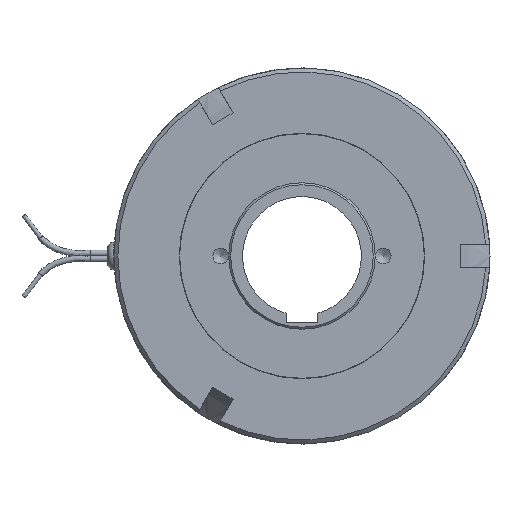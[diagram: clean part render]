
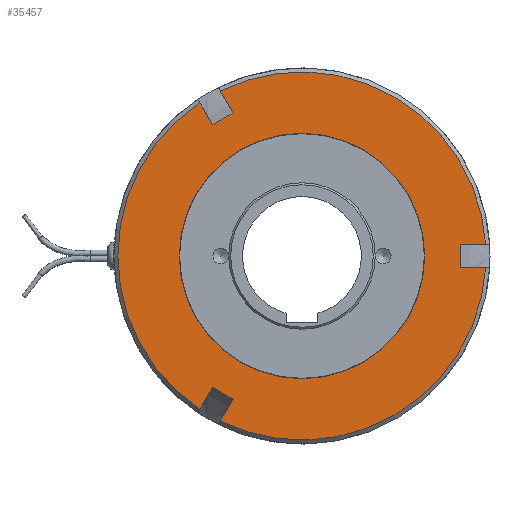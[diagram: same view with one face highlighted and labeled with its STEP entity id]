
A CAD part, left-side view. The second image highlights one B-rep face of the part: STEP entity #35457.
In plain terms, the highlighted planar face has unit normal (-1, 0, 0).
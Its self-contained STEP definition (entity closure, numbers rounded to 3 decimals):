
#490=FACE_BOUND('',#3790,.T.);
#704=PLANE('',#40186);
#2123=FACE_OUTER_BOUND('',#3789,.T.);
#3789=EDGE_LOOP('',(#30165,#30166,#30167,#30168,#30169,#30170,#30171,#30172,
#30173,#30174,#30175,#30176));
#3790=EDGE_LOOP('',(#30177,#30178));
#5585=LINE('',#64329,#7444);
#5586=LINE('',#64337,#7445);
#5587=LINE('',#64343,#7446);
#5588=LINE('',#64347,#7447);
#5590=LINE('',#64358,#7449);
#5592=LINE('',#64376,#7451);
#5593=LINE('',#64382,#7452);
#5594=LINE('',#64384,#7453);
#5595=LINE('',#64386,#7454);
#7444=VECTOR('',#51153,10.);
#7445=VECTOR('',#51158,10.);
#7446=VECTOR('',#51163,10.);
#7447=VECTOR('',#51166,10.);
#7449=VECTOR('',#51172,10.);
#7451=VECTOR('',#51178,10.);
#7452=VECTOR('',#51185,10.);
#7453=VECTOR('',#51186,10.);
#7454=VECTOR('',#51187,10.);
#10949=CIRCLE('',#40187,46.5);
#10950=CIRCLE('',#40188,46.5);
#10951=CIRCLE('',#40189,46.5);
#10952=CIRCLE('',#40190,31.);
#10953=CIRCLE('',#40191,31.);
#14475=VERTEX_POINT('',#64327);
#14476=VERTEX_POINT('',#64328);
#14477=VERTEX_POINT('',#64335);
#14478=VERTEX_POINT('',#64336);
#14479=VERTEX_POINT('',#64345);
#14480=VERTEX_POINT('',#64346);
#14483=VERTEX_POINT('',#64356);
#14484=VERTEX_POINT('',#64357);
#14488=VERTEX_POINT('',#64379);
#14489=VERTEX_POINT('',#64381);
#14490=VERTEX_POINT('',#64383);
#14491=VERTEX_POINT('',#64385);
#14492=VERTEX_POINT('',#64388);
#14493=VERTEX_POINT('',#64389);
#19775=EDGE_CURVE('',#14475,#14476,#5585,.T.);
#19778=EDGE_CURVE('',#14477,#14478,#5586,.T.);
#19781=EDGE_CURVE('',#14478,#14475,#5587,.T.);
#19782=EDGE_CURVE('',#14479,#14480,#5588,.T.);
#19786=EDGE_CURVE('',#14483,#14484,#5590,.T.);
#19792=EDGE_CURVE('',#14484,#14479,#5592,.T.);
#19793=EDGE_CURVE('',#14483,#14476,#10949,.T.);
#19794=EDGE_CURVE('',#14488,#14480,#10950,.T.);
#19795=EDGE_CURVE('',#14488,#14489,#5593,.T.);
#19796=EDGE_CURVE('',#14489,#14490,#5594,.T.);
#19797=EDGE_CURVE('',#14490,#14491,#5595,.T.);
#19798=EDGE_CURVE('',#14477,#14491,#10951,.T.);
#19799=EDGE_CURVE('',#14492,#14493,#10952,.T.);
#19800=EDGE_CURVE('',#14493,#14492,#10953,.T.);
#30165=ORIENTED_EDGE('',*,*,#19778,.T.);
#30166=ORIENTED_EDGE('',*,*,#19781,.T.);
#30167=ORIENTED_EDGE('',*,*,#19775,.T.);
#30168=ORIENTED_EDGE('',*,*,#19793,.F.);
#30169=ORIENTED_EDGE('',*,*,#19786,.T.);
#30170=ORIENTED_EDGE('',*,*,#19792,.T.);
#30171=ORIENTED_EDGE('',*,*,#19782,.T.);
#30172=ORIENTED_EDGE('',*,*,#19794,.F.);
#30173=ORIENTED_EDGE('',*,*,#19795,.T.);
#30174=ORIENTED_EDGE('',*,*,#19796,.T.);
#30175=ORIENTED_EDGE('',*,*,#19797,.T.);
#30176=ORIENTED_EDGE('',*,*,#19798,.F.);
#30177=ORIENTED_EDGE('',*,*,#19799,.T.);
#30178=ORIENTED_EDGE('',*,*,#19800,.T.);
#35457=ADVANCED_FACE('',(#2123,#490),#704,.T.);
#40186=AXIS2_PLACEMENT_3D('',#64377,#51179,#51180);
#40187=AXIS2_PLACEMENT_3D('',#64378,#51181,#51182);
#40188=AXIS2_PLACEMENT_3D('',#64380,#51183,#51184);
#40189=AXIS2_PLACEMENT_3D('',#64387,#51188,#51189);
#40190=AXIS2_PLACEMENT_3D('',#64390,#51190,#51191);
#40191=AXIS2_PLACEMENT_3D('',#64391,#51192,#51193);
#51153=DIRECTION('',(0.,0.5,0.866));
#51158=DIRECTION('',(0.,-0.5,-0.866));
#51163=DIRECTION('',(0.,0.866,-0.5));
#51166=DIRECTION('',(0.,0.5,-0.866));
#51172=DIRECTION('',(0.,-0.5,0.866));
#51178=DIRECTION('',(0.,-0.866,-0.5));
#51179=DIRECTION('center_axis',(-1.,0.,0.));
#51180=DIRECTION('ref_axis',(0.,0.,1.));
#51181=DIRECTION('center_axis',(1.,0.,0.));
#51182=DIRECTION('ref_axis',(0.,-1.,0.));
#51183=DIRECTION('center_axis',(1.,0.,0.));
#51184=DIRECTION('ref_axis',(0.,-1.,0.));
#51185=DIRECTION('',(0.,1.,0.));
#51186=DIRECTION('',(0.,0.,1.));
#51187=DIRECTION('',(0.,-1.,0.));
#51188=DIRECTION('center_axis',(1.,0.,0.));
#51189=DIRECTION('ref_axis',(0.,-1.,0.));
#51190=DIRECTION('center_axis',(1.,0.,0.));
#51191=DIRECTION('ref_axis',(0.,0.,-1.));
#51192=DIRECTION('center_axis',(1.,0.,0.));
#51193=DIRECTION('ref_axis',(0.,0.,-1.));
#64327=CARTESIAN_POINT('',(-25.,22.598,33.141));
#64328=CARTESIAN_POINT('',(-25.,25.8,38.686));
#64329=CARTESIAN_POINT('',(-25.,19.887,28.446));
#64335=CARTESIAN_POINT('',(-25.,20.603,41.686));
#64336=CARTESIAN_POINT('',(-25.,17.402,36.141));
#64337=CARTESIAN_POINT('',(-25.,14.691,31.446));
#64343=CARTESIAN_POINT('',(-25.,37.813,24.357));
#64345=CARTESIAN_POINT('',(-25.,17.402,-36.141));
#64346=CARTESIAN_POINT('',(-25.,20.603,-41.686));
#64347=CARTESIAN_POINT('',(-25.,14.691,-31.446));
#64356=CARTESIAN_POINT('',(-25.,25.8,-38.686));
#64357=CARTESIAN_POINT('',(-25.,22.598,-33.141));
#64358=CARTESIAN_POINT('',(-25.,19.887,-28.446));
#64376=CARTESIAN_POINT('',(-25.,37.813,-24.357));
#64377=CARTESIAN_POINT('Origin',(-25.,47.5,0.));
#64378=CARTESIAN_POINT('Origin',(-25.,0.,0.));
#64379=CARTESIAN_POINT('',(-25.,-46.403,-3.));
#64380=CARTESIAN_POINT('Origin',(-25.,0.,0.));
#64381=CARTESIAN_POINT('',(-25.,-40.,-3.));
#64382=CARTESIAN_POINT('',(-25.,1.047,-3.));
#64383=CARTESIAN_POINT('',(-25.,-40.,3.));
#64384=CARTESIAN_POINT('',(-25.,-40.,0.));
#64385=CARTESIAN_POINT('',(-25.,-46.403,3.));
#64386=CARTESIAN_POINT('',(-25.,1.047,3.));
#64387=CARTESIAN_POINT('Origin',(-25.,0.,0.));
#64388=CARTESIAN_POINT('',(-25.,31.,0.));
#64389=CARTESIAN_POINT('',(-25.,-31.,0.));
#64390=CARTESIAN_POINT('Origin',(-25.,0.,0.));
#64391=CARTESIAN_POINT('Origin',(-25.,0.,0.));
